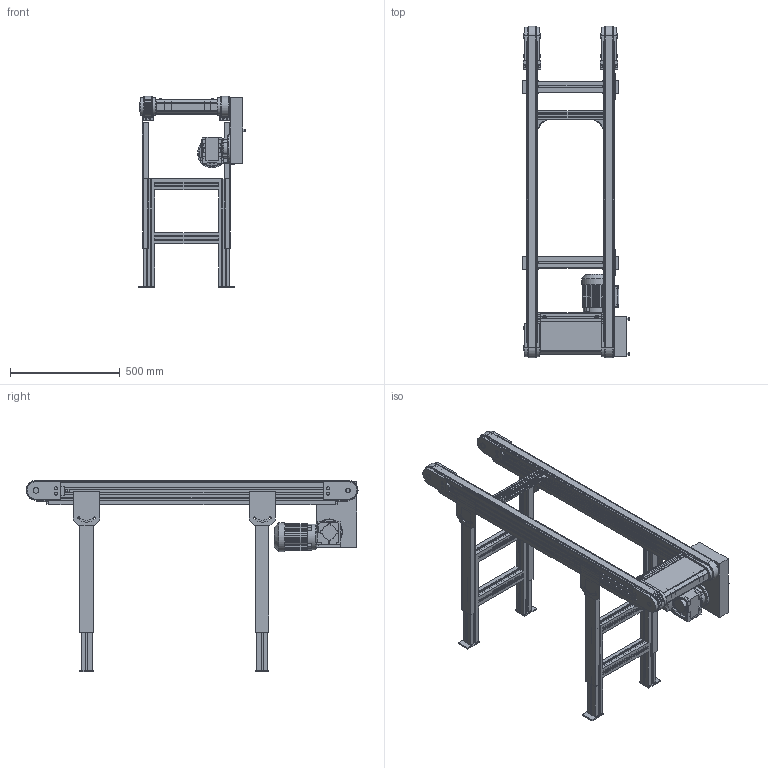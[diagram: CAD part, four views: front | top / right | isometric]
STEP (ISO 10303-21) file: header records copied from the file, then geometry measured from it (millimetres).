
FILE_DESCRIPTION(/* description */ (''),/* implementation_level */ '2;1');
FILE_NAME(/* name */ 'C:\Marketing\01_Versamove-SPU_STEP-Dateien-Homepage\Versamove plus\STEP-Dateien\Zahnriemenförderer_ZRF-P-2010_B400_L1500.stp',/* time_stamp */ '2016-12-22T10:25:17+01:00',/* author */ ('herbert.engels'),/* organization */ (''),/* preprocessor_version */ 'ST-DEVELOPER v15.6',/* originating_system */ 'Autodesk Inventor 2015',/* authorisation */ '');
FILE_SCHEMA (('CONFIG_CONTROL_DESIGN'));
Products named in the file (1): Zahnriemenförderer_ZRF-P-2010_B400_L1500
Bounding box: 490.65 x 1511.13 x 870.56 mm (x, y, z)
Volume: 25919212.1 mm3; surface area: 5540982.2 mm2
Topology: 3 solids, 3 shells, 3474 faces, 10405 edges, 6744 vertices
Faces by surface type: plane 2318, cylinder 855, bspline 172, cone 116, torus 11, sphere 2
Full cylindrical faces by diameter (mm): 7 x4, 8 x32, 13 x12, 16.2 x4, 19 x2, 20 x5, 24 x1, 25.5 x4, 30 x1, 35 x6, 40 x4, 56 x2, 72 x1, 87.127 x1, 117 x1, 120 x1, 132 x1
Entity records: 123258 total; most frequent: CARTESIAN_POINT 26682, ORIENTED_EDGE 20506, DIRECTION 18338, EDGE_CURVE 10243, LINE 7300, VECTOR 7300, VERTEX_POINT 6706, AXIS2_PLACEMENT_3D 5519
